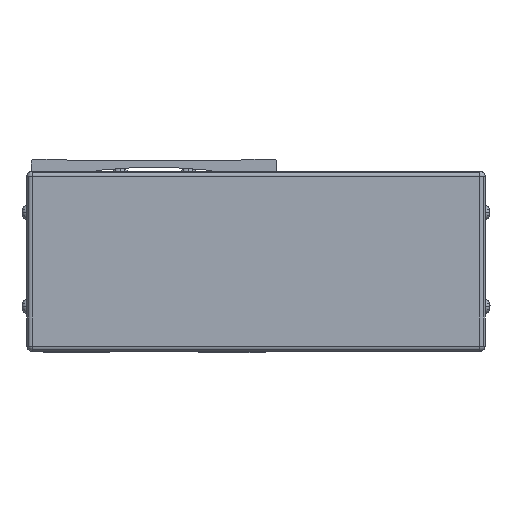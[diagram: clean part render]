
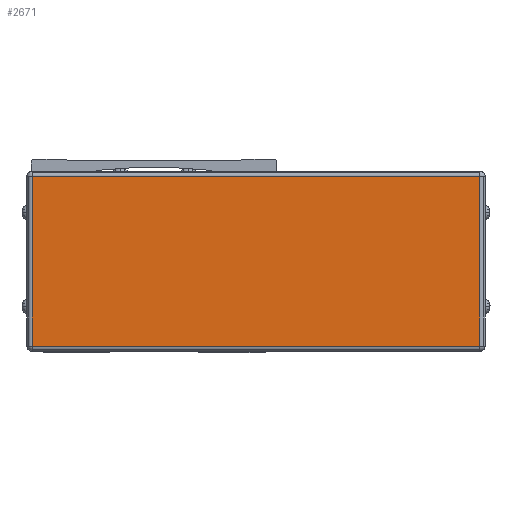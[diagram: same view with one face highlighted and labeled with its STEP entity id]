
A CAD part, front view. The second image highlights one B-rep face of the part: STEP entity #2671.
In plain terms, the highlighted planar face has unit normal (0, -1, 0).
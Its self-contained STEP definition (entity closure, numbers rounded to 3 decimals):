
#2671=ADVANCED_FACE('',(#6724),#6725,.T.);
#6724=FACE_OUTER_BOUND('',#12716,.T.);
#6725=PLANE('',#12717);
#12716=EDGE_LOOP('',(#21264,#21265,#21266,#21267));
#12717=AXIS2_PLACEMENT_3D('',#21268,#21269,#21270);
#21264=ORIENTED_EDGE('',*,*,#36803,.F.);
#21265=ORIENTED_EDGE('',*,*,#36804,.F.);
#21266=ORIENTED_EDGE('',*,*,#36049,.F.);
#21267=ORIENTED_EDGE('',*,*,#36805,.F.);
#21268=CARTESIAN_POINT('',(39.,61.222,-42.5));
#21269=DIRECTION('',(0.0,-1.0,0.0));
#21270=DIRECTION('',(1.0,0.0,0.0));
#36049=EDGE_CURVE('',#43286,#42889,#43288,.T.);
#36803=EDGE_CURVE('',#44550,#44551,#44552,.T.);
#36804=EDGE_CURVE('',#42889,#44550,#44553,.T.);
#36805=EDGE_CURVE('',#44551,#43286,#44554,.T.);
#42889=VERTEX_POINT('',#53048);
#43286=VERTEX_POINT('',#53607);
#43288=LINE('',#53609,#53610);
#44550=VERTEX_POINT('',#55503);
#44551=VERTEX_POINT('',#55504);
#44552=LINE('',#55505,#55506);
#44553=LINE('',#55507,#55508);
#44554=LINE('',#55509,#55510);
#53048=CARTESIAN_POINT('',(124.7,61.222,24.5));
#53607=CARTESIAN_POINT('',(-46.7,61.222,24.5));
#53609=CARTESIAN_POINT('',(39.,61.222,24.5));
#53610=VECTOR('',#66899,10.0);
#55503=CARTESIAN_POINT('',(124.7,61.222,-40.5));
#55504=CARTESIAN_POINT('',(-46.7,61.222,-40.5));
#55505=CARTESIAN_POINT('',(39.,61.222,-40.5));
#55506=VECTOR('',#67797,10.0);
#55507=CARTESIAN_POINT('',(124.7,61.222,-42.5));
#55508=VECTOR('',#67798,10.0);
#55509=CARTESIAN_POINT('',(-46.7,61.222,-42.5));
#55510=VECTOR('',#67799,10.0);
#66899=DIRECTION('',(1.0,0.0,0.0));
#67797=DIRECTION('',(-1.0,0.0,0.0));
#67798=DIRECTION('',(0.0,0.0,-1.0));
#67799=DIRECTION('',(0.0,0.0,1.0));
